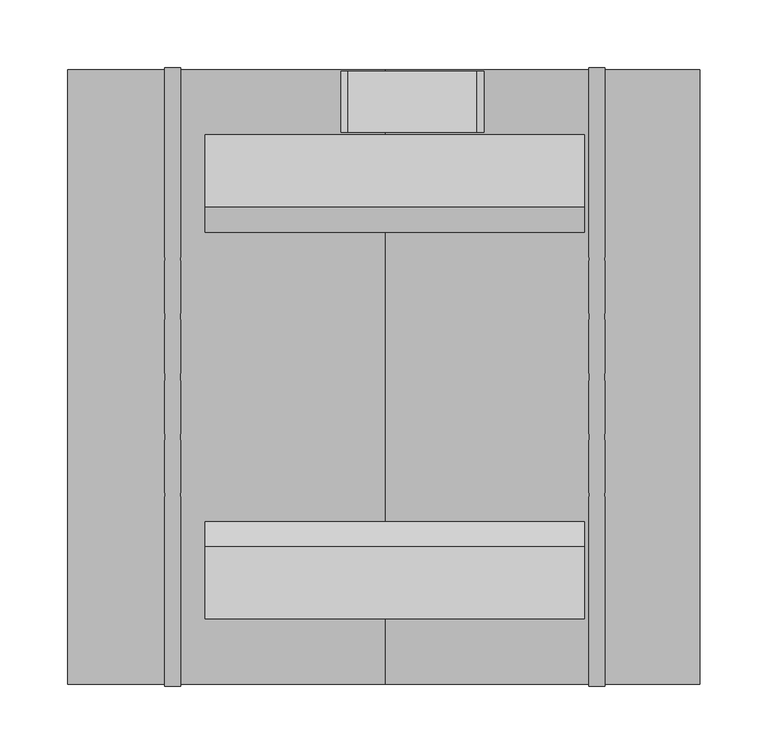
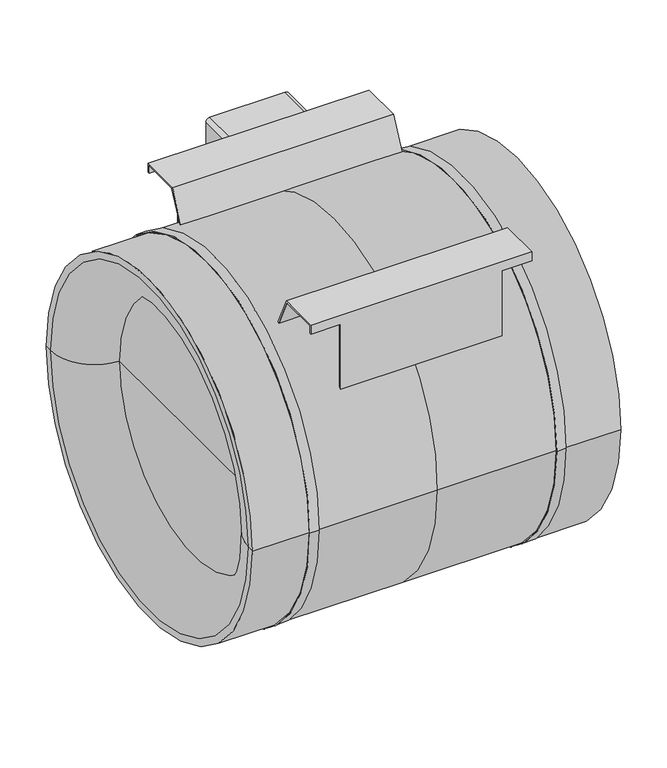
"""IFC4 building model written with IfcOpenShell, lengths in millimetres: unitary equipment geometry, VE-Wentylator-ParaForma-Harmann-JETTEC-Nawiewny : 450/5000S."""

from ifc_helpers import new_model, si_unit, point, frame, frame_2d, origin, place, context, project, spatial, polyline, circle_curve, ellipse_curve, trimmed, segment, composite_curve, outline, extrude, source, transform, mapped, element, save
from ifc_brep_helpers import plane_surface, cylinder_surface, revolved_surface, advanced_brep


def unitary_equipment_794affb7(model_context):
    return source(origin(), model_context, "Body", "SolidModel", [
        extrude(outline(composite_curve([segment(trimmed(circle_curve(frame_2d((149.0, 68.2)), 5.0), [point((144.0, 68.2))], [point((149.0, 73.2))], False, "CARTESIAN"), True, "CONTINUOUS"), segment(polyline([(149.0, 73.2), (230.0, 73.2)]), True, "CONTINUOUS"), segment(trimmed(circle_curve(frame_2d((230.0, 68.2)), 5.0), [point((230.0, 73.2))], [point((235.0, 68.2))], False, "CARTESIAN"), True, "CONTINUOUS"), segment(polyline([(235.0, 68.2), (235.0, -27.2)]), True, "CONTINUOUS"), segment(trimmed(circle_curve(frame_2d((230.0, -27.2)), 5.0), [point((235.0, -27.2))], [point((230.0, -32.2))], False, "CARTESIAN"), True, "CONTINUOUS"), segment(polyline([(230.0, -32.2), (149.0, -32.2)]), True, "CONTINUOUS"), segment(trimmed(circle_curve(frame_2d((149.0, -27.2)), 5.0), [point((149.0, -32.2))], [point((144.0, -27.2))], False, "CARTESIAN"), True, "CONTINUOUS"), segment(polyline([(144.0, -27.2), (144.0, 68.2)]), True, "CONTINUOUS")], self_intersect=False)), frame((0.0, 180.5, 0.0), z_axis=(0.0, 1.0, 0.0), x_axis=(0.0, 0.0, 1.0)), (0.0, 0.0, 1.0), 45.0),
        advanced_brep(
        [(147.5, 178.5, 226.5), (147.5, 178.5, 238.5), (147.5, 125.2, 238.5), (147.5, 106.8284471, 199.7246427), (147.5, 108.5903171, 198.7722139), (147.5, 126.4655365, 236.5), (147.5, 176.5, 236.5), (147.5, 176.5, 226.5), (110.0, 176.5, 226.5), (110.0, 178.5, 226.5), (-132.5, 176.5, 236.5), (-132.5, 176.5, 226.5), (-95.0, 176.5, 226.5), (-95.0, 176.5, 141.9506957), (110.0, 176.5, 141.9506957), (-132.5, 126.4655365, 236.5), (110.0, 108.5903171, 198.7722139), (-95.0, 108.5903171, 198.7722139), (-132.5, 108.5903171, 198.7722139), (-132.5, 125.2, 238.5), (-132.5, 106.8284471, 199.7246427), (-95.0, 106.8284471, 199.7246427), (110.0, 106.8284471, 199.7246427), (-132.5, 178.5, 238.5), (110.0, 178.5, 139.4274005), (-95.0, 178.5, 139.4274005), (-95.0, 178.5, 226.5), (-132.5, 178.5, 226.5)],
        [
            (0, 1),
            (1, 2),
            (2, 3),
            (3, 4, circle_curve(frame((147.5, 0.0, 0.0), z_axis=(-1.0, 0.0, 0.0), x_axis=(0.0, 1.0, 0.0)), 226.5)),
            (4, 5),
            (5, 6),
            (6, 7),
            (7, 0),
            (7, 8),
            (8, 9),
            (9, 0),
            (6, 10),
            (10, 11),
            (11, 12),
            (12, 13),
            (13, 14),
            (14, 8),
            (5, 15),
            (15, 10),
            (4, 16),
            (16, 17),
            (17, 18),
            (18, 15),
            (19, 20),
            (20, 21),
            (21, 22),
            (22, 3),
            (2, 19),
            (1, 23),
            (23, 19),
            (9, 24),
            (24, 25),
            (25, 26),
            (26, 27),
            (27, 23),
            (20, 18, circle_curve(frame((-132.5, 0.0, 0.0), z_axis=(-1.0, 0.0, 0.0), x_axis=(0.0, 1.0, 0.0)), 226.5)),
            (17, 21, circle_curve(frame((-95.0, 0.0, 0.0), z_axis=(1.0, 0.0, 0.0), x_axis=(0.0, 1.0, 0.0)), 226.5)),
            (22, 16, circle_curve(frame((110.0, 0.0, 0.0), z_axis=(-1.0, 0.0, 0.0), x_axis=(0.0, 1.0, 0.0)), 226.5)),
            (25, 13, circle_curve(frame((-95.0, 0.0, 0.0), z_axis=(1.0, 0.0, 0.0), x_axis=(0.0, 1.0, 0.0)), 226.5)),
            (12, 26),
            (14, 24, circle_curve(frame((110.0, 0.0, 0.0), z_axis=(-1.0, 0.0, 0.0), x_axis=(0.0, 1.0, 0.0)), 226.5)),
            (27, 11),
        ],
        [
            plane_surface(frame((147.5, 0.0, 0.0), z_axis=(1.0, 0.0, 0.0), x_axis=(0.0, 0.0, 1.0))),
            plane_surface(frame((110.0, 178.5, 226.5), z_axis=(0.0, 0.0, -1.0), x_axis=(1.0, 0.0, 0.0))),
            plane_surface(frame((110.0, 176.5, 226.5), z_axis=(0.0, -1.0, 0.0), x_axis=(1.0, 0.0, 0.0))),
            plane_surface(frame((110.0, 176.5, 236.5), z_axis=(0.0, 0.0, -1.0), x_axis=(1.0, 0.0, 0.0))),
            plane_surface(frame((110.0, 126.4655365, 236.5), z_axis=(0.0, 0.9036992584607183, -0.4281677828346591), x_axis=(1.0, 0.0, 0.0))),
            plane_surface(frame((110.0, 12.2, 0.0), z_axis=(0.0, -0.9036992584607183, 0.4281677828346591), x_axis=(1.0, 0.0, 0.0))),
            plane_surface(frame((110.0, 125.2, 238.5), z_axis=(0.0, 0.0, 1.0), x_axis=(1.0, 0.0, 0.0))),
            plane_surface(frame((110.0, 178.5, 238.5), z_axis=(0.0, 1.0, 0.0), x_axis=(1.0, 0.0, 0.0))),
            revolved_surface(polyline([(-132.5, 226.5, 0.0), (-95.0, 226.5, 0.0)]), (-132.5, 0.0, 0.0), (-1.0, 0.0, 0.0)),
            revolved_surface(polyline([(110.0, 226.5, 0.0), (147.5, 226.5, 0.0)]), (110.0, 0.0, 0.0), (-1.0, 0.0, 0.0)),
            plane_surface(frame((-95.0, 0.0, 0.0), z_axis=(-1.0, 0.0, 0.0), x_axis=(0.0, 0.0, 1.0))),
            plane_surface(frame((110.0, 0.0, 0.0), z_axis=(1.0, 0.0, 0.0), x_axis=(0.0, 0.0, 1.0))),
            revolved_surface(polyline([(-95.0, 226.5, 0.0), (110.0, 226.5, 0.0)]), (-95.0, 0.0, 0.0), (-1.0, 0.0, 0.0)),
            plane_surface(frame((-132.5, 0.0, 0.0), z_axis=(-1.0, 0.0, 0.0), x_axis=(0.0, 0.0, 1.0))),
            plane_surface(frame((-132.5, 178.5, 226.5), z_axis=(0.0, 0.0, -1.0), x_axis=(1.0, 0.0, 0.0))),
        ],
        [
            (0, [[1, 2, 3, 4, 5, 6, 7, 8]]),
            (1, [[-8, 9, 10, 11]]),
            (2, [[-7, 12, 13, 14, 15, 16, 17, -9]]),
            (3, [[-12, -6, 18, 19]]),
            (4, [[-18, -5, 20, 21, 22, 23]]),
            (5, [[24, 25, 26, 27, -3, 28]]),
            (6, [[-28, -2, 29, 30]]),
            (7, [[-29, -1, -11, 31, 32, 33, 34, 35]]),
            (8, [[36, -22, 37, -25]]),
            (9, [[-4, -27, 38, -20]]),
            (10, [[39, -15, 40, -33]]),
            (11, [[41, -31, -10, -17]]),
            (12, [[-21, -38, -26, -37]]),
            (12, [[-39, -32, -41, -16]]),
            (13, [[42, -13, -19, -23, -36, -24, -30, -35]]),
            (14, [[-42, -34, -40, -14]]),
        ],
    ),
        advanced_brep(
        [(147.5, -125.2, 238.5), (147.5, -178.5, 238.5), (147.5, -178.5, 226.5), (147.5, -176.5, 226.5), (147.5, -176.5, 236.5), (147.5, -126.4655365, 236.5), (147.5, -108.5903171, 198.7722139), (147.5, -106.8284471, 199.7246427), (-132.5, -126.4655365, 236.5), (-132.5, -108.5903171, 198.7722139), (-95.0, -108.5903171, 198.7722139), (110.0, -108.5903171, 198.7722139), (-132.5, -176.5, 236.5), (110.0, -176.5, 226.5), (110.0, -176.5, 141.9506957), (-95.0, -176.5, 141.9506957), (-95.0, -176.5, 226.5), (-132.5, -176.5, 226.5), (110.0, -178.5, 226.5), (-132.5, -178.5, 238.5), (-132.5, -178.5, 226.5), (-95.0, -178.5, 226.5), (-95.0, -178.5, 139.4274005), (110.0, -178.5, 139.4274005), (-132.5, -125.2, 238.5), (110.0, -106.8284471, 199.7246427), (-95.0, -106.8284471, 199.7246427), (-132.5, -106.8284471, 199.7246427)],
        [
            (0, 1),
            (1, 2),
            (2, 3),
            (3, 4),
            (4, 5),
            (5, 6),
            (6, 7, circle_curve(frame((147.5, 0.0, 0.0), z_axis=(-1.0, 0.0, 0.0), x_axis=(0.0, 1.0, 0.0)), 226.5)),
            (7, 0),
            (8, 9),
            (9, 10),
            (10, 11),
            (11, 6),
            (5, 8),
            (4, 12),
            (12, 8),
            (3, 13),
            (13, 14),
            (14, 15),
            (15, 16),
            (16, 17),
            (17, 12),
            (2, 18),
            (18, 13),
            (1, 19),
            (19, 20),
            (20, 21),
            (21, 22),
            (22, 23),
            (23, 18),
            (0, 24),
            (24, 19),
            (7, 25),
            (25, 26),
            (26, 27),
            (27, 24),
            (9, 27, circle_curve(frame((-132.5, 0.0, 0.0), z_axis=(-1.0, 0.0, 0.0), x_axis=(0.0, 1.0, 0.0)), 226.5)),
            (26, 10, circle_curve(frame((-95.0, 0.0, 0.0), z_axis=(1.0, 0.0, 0.0), x_axis=(0.0, 1.0, 0.0)), 226.5)),
            (11, 25, circle_curve(frame((110.0, 0.0, 0.0), z_axis=(-1.0, 0.0, 0.0), x_axis=(0.0, 1.0, 0.0)), 226.5)),
            (15, 22, circle_curve(frame((-95.0, 0.0, 0.0), z_axis=(1.0, 0.0, 0.0), x_axis=(0.0, 1.0, 0.0)), 226.5)),
            (21, 16),
            (23, 14, circle_curve(frame((110.0, 0.0, 0.0), z_axis=(-1.0, 0.0, 0.0), x_axis=(0.0, 1.0, 0.0)), 226.5)),
            (17, 20),
        ],
        [
            plane_surface(frame((147.5, 0.0, 0.0), z_axis=(1.0, 0.0, 0.0), x_axis=(0.0, 0.0, 1.0))),
            plane_surface(frame((110.0, -13.4655365, -2.0), z_axis=(0.0, -0.9036992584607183, -0.4281677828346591), x_axis=(1.0, 0.0, 0.0))),
            plane_surface(frame((110.0, -126.4655365, 236.5), z_axis=(0.0, 0.0, -1.0), x_axis=(1.0, 0.0, 0.0))),
            plane_surface(frame((110.0, -176.5, 236.5), z_axis=(0.0, 1.0, 0.0), x_axis=(1.0, 0.0, 0.0))),
            plane_surface(frame((110.0, -176.5, 226.5), z_axis=(0.0, 0.0, -1.0), x_axis=(1.0, 0.0, 0.0))),
            plane_surface(frame((110.0, -178.5, 226.5), z_axis=(0.0, -1.0, 0.0), x_axis=(1.0, 0.0, 0.0))),
            plane_surface(frame((110.0, -178.5, 238.5), z_axis=(0.0, 0.0, 1.0), x_axis=(1.0, 0.0, 0.0))),
            plane_surface(frame((110.0, -125.2, 238.5), z_axis=(0.0, 0.9036992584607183, 0.4281677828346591), x_axis=(1.0, 0.0, 0.0))),
            revolved_surface(polyline([(-132.5, 226.5, 0.0), (-95.0, 226.5, 0.0)]), (-132.5, 0.0, 0.0), (-1.0, 0.0, 0.0)),
            revolved_surface(polyline([(110.0, 226.5, 0.0), (147.5, 226.5, 0.0)]), (110.0, 0.0, 0.0), (-1.0, 0.0, 0.0)),
            plane_surface(frame((-95.0, 0.0, 0.0), z_axis=(-1.0, 0.0, 0.0), x_axis=(0.0, 0.0, 1.0))),
            plane_surface(frame((110.0, 0.0, 0.0), z_axis=(1.0, 0.0, 0.0), x_axis=(0.0, 0.0, 1.0))),
            revolved_surface(polyline([(-95.0, 226.5, 0.0), (110.0, 226.5, 0.0)]), (-95.0, 0.0, 0.0), (-1.0, 0.0, 0.0)),
            plane_surface(frame((-132.5, 0.0, 0.0), z_axis=(-1.0, 0.0, 0.0), x_axis=(0.0, 0.0, 1.0))),
            plane_surface(frame((-132.5, -176.5, 226.5), z_axis=(0.0, 0.0, -1.0), x_axis=(1.0, 0.0, 0.0))),
        ],
        [
            (0, [[1, 2, 3, 4, 5, 6, 7, 8]]),
            (1, [[9, 10, 11, 12, -6, 13]]),
            (2, [[-13, -5, 14, 15]]),
            (3, [[-14, -4, 16, 17, 18, 19, 20, 21]]),
            (4, [[-3, 22, 23, -16]]),
            (5, [[-2, 24, 25, 26, 27, 28, 29, -22]]),
            (6, [[-24, -1, 30, 31]]),
            (7, [[-30, -8, 32, 33, 34, 35]]),
            (8, [[36, -34, 37, -10]]),
            (9, [[-7, -12, 38, -32]]),
            (10, [[39, -27, 40, -19]]),
            (11, [[41, -17, -23, -29]]),
            (12, [[-11, -37, -33, -38]]),
            (12, [[-39, -18, -41, -28]]),
            (13, [[-15, -21, 42, -25, -31, -35, -36, -9]]),
            (14, [[-42, -20, -40, -26]]),
        ],
    ),
        advanced_brep(
        [(-150.5, 226.5, 0.0), (0.0, 226.5, 0.0), (0.0, -226.5, 0.0), (-150.5, -226.5, 0.0), (-234.0, -226.5, 0.0), (-234.0, 226.5, 0.0), (-162.5, 226.5, 0.0), (-162.5, -226.5, 0.0), (-234.0, -217.5, 0.0), (-234.0, 217.5, 0.0), (-178.5, -162.0, 0.0), (-178.5, 162.0, 0.0), (-178.5, 0.0, 0.0), (232.5, -226.5, 0.0), (232.5, 226.5, 0.0), (232.5, 0.0, 0.0), (162.5, -226.5, 0.0), (162.5, 226.5, 0.0), (150.5, 226.5, 0.0), (150.5, -226.5, 0.0), (-150.5, -228.0, 0.0), (-150.5, 228.0, 0.0), (-162.5, -228.0, 0.0), (-162.5, 228.0, 0.0), (162.5, -228.0, 0.0), (162.5, 228.0, 0.0), (150.5, -228.0, 0.0), (150.5, 228.0, 0.0)],
        [
            (0, 1),
            (1, 2, circle_curve(frame((0.0, 0.0, 0.0), z_axis=(-1.0, 0.0, 0.0), x_axis=(0.0, 1.0, 0.0)), 226.5)),
            (2, 3),
            (3, 0, circle_curve(frame((-150.5, 0.0, 0.0), z_axis=(1.0, 0.0, 0.0), x_axis=(0.0, 1.0, 0.0)), 226.5)),
            (0, 3, circle_curve(frame((-150.5, 0.0, 0.0), z_axis=(1.0, 0.0, 0.0), x_axis=(0.0, 1.0, 0.0)), 226.5)),
            (2, 1, circle_curve(frame((0.0, 0.0, 0.0), z_axis=(-1.0, 0.0, 0.0), x_axis=(0.0, 1.0, 0.0)), 226.5)),
            (4, 5, circle_curve(frame((-234.0, 0.0, 0.0), z_axis=(1.0, 0.0, 0.0), x_axis=(0.0, 1.0, 0.0)), 226.5)),
            (5, 6),
            (6, 7, circle_curve(frame((-162.5, 0.0, 0.0), z_axis=(-1.0, 0.0, 0.0), x_axis=(0.0, 1.0, 0.0)), 226.5)),
            (7, 4),
            (5, 4, circle_curve(frame((-234.0, 0.0, 0.0), z_axis=(1.0, 0.0, 0.0), x_axis=(0.0, 1.0, 0.0)), 226.5)),
            (7, 6, circle_curve(frame((-162.5, 0.0, 0.0), z_axis=(-1.0, 0.0, 0.0), x_axis=(0.0, 1.0, 0.0)), 226.5)),
            (4, 8),
            (8, 9, circle_curve(frame((-234.0, 0.0, 0.0), z_axis=(1.0, 0.0, 0.0), x_axis=(0.0, 1.0, 0.0)), 217.5)),
            (9, 5),
            (9, 8, circle_curve(frame((-234.0, 0.0, 0.0), z_axis=(1.0, 0.0, 0.0), x_axis=(0.0, 1.0, 0.0)), 217.5)),
            (8, 10, circle_curve(frame((-178.5, -217.5, 0.0), z_axis=(0.0, 0.0, -1.0), x_axis=(1.0, 0.0, 0.0)), 55.5)),
            (10, 11, circle_curve(frame((-178.5, 0.0, 0.0), z_axis=(1.0, 0.0, 0.0), x_axis=(0.0, 1.0, 0.0)), 162.0)),
            (11, 9, circle_curve(frame((-178.5, 217.5, 0.0), z_axis=(0.0, 0.0, -1.0), x_axis=(1.0, 0.0, 0.0)), 55.5)),
            (11, 10, circle_curve(frame((-178.5, 0.0, 0.0), z_axis=(1.0, 0.0, 0.0), x_axis=(0.0, 1.0, 0.0)), 162.0)),
            (10, 12),
            (12, 11),
            (13, 14, circle_curve(frame((232.5, 0.0, 0.0), z_axis=(1.0, 0.0, 0.0), x_axis=(0.0, 1.0, 0.0)), 226.5)),
            (14, 15),
            (15, 13),
            (14, 13, circle_curve(frame((232.5, 0.0, 0.0), z_axis=(1.0, 0.0, 0.0), x_axis=(0.0, 1.0, 0.0)), 226.5)),
            (13, 16),
            (16, 17, circle_curve(frame((162.5, 0.0, 0.0), z_axis=(1.0, 0.0, 0.0), x_axis=(0.0, 1.0, 0.0)), 226.5)),
            (17, 14),
            (17, 16, circle_curve(frame((162.5, 0.0, 0.0), z_axis=(1.0, 0.0, 0.0), x_axis=(0.0, 1.0, 0.0)), 226.5)),
            (1, 18),
            (18, 19, circle_curve(frame((150.5, 0.0, 0.0), z_axis=(-1.0, 0.0, 0.0), x_axis=(0.0, 1.0, 0.0)), 226.5)),
            (19, 2),
            (19, 18, circle_curve(frame((150.5, 0.0, 0.0), z_axis=(-1.0, 0.0, 0.0), x_axis=(0.0, 1.0, 0.0)), 226.5)),
            (20, 21, circle_curve(frame((-150.5, 0.0, 0.0), z_axis=(1.0, 0.0, 0.0), x_axis=(0.0, 1.0, 0.0)), 228.0)),
            (21, 0),
            (3, 20),
            (21, 20, circle_curve(frame((-150.5, 0.0, 0.0), z_axis=(1.0, 0.0, 0.0), x_axis=(0.0, 1.0, 0.0)), 228.0)),
            (20, 22),
            (22, 23, circle_curve(frame((-162.5, 0.0, 0.0), z_axis=(1.0, 0.0, 0.0), x_axis=(0.0, 1.0, 0.0)), 228.0)),
            (23, 21),
            (23, 22, circle_curve(frame((-162.5, 0.0, 0.0), z_axis=(1.0, 0.0, 0.0), x_axis=(0.0, 1.0, 0.0)), 228.0)),
            (22, 7),
            (6, 23),
            (24, 25, circle_curve(frame((162.5, 0.0, 0.0), z_axis=(1.0, 0.0, 0.0), x_axis=(0.0, 1.0, 0.0)), 228.0)),
            (25, 17),
            (16, 24),
            (25, 24, circle_curve(frame((162.5, 0.0, 0.0), z_axis=(1.0, 0.0, 0.0), x_axis=(0.0, 1.0, 0.0)), 228.0)),
            (24, 26),
            (26, 27, circle_curve(frame((150.5, 0.0, 0.0), z_axis=(1.0, 0.0, 0.0), x_axis=(0.0, 1.0, 0.0)), 228.0)),
            (27, 25),
            (27, 26, circle_curve(frame((150.5, 0.0, 0.0), z_axis=(1.0, 0.0, 0.0), x_axis=(0.0, 1.0, 0.0)), 228.0)),
            (26, 19),
            (18, 27),
        ],
        [
            cylinder_surface(frame((-178.5, 0.0, 0.0), z_axis=(-1.0, 0.0, 0.0), x_axis=(0.0, 1.0, 0.0)), 226.5),
            plane_surface(frame((-234.0, 0.0, 0.0), z_axis=(-1.0, 0.0, 0.0), x_axis=(0.0, 1.0, 0.0))),
            revolved_surface(trimmed(ellipse_curve(frame((-178.5, 217.5, 0.0), z_axis=(0.0, 0.0, 1.0), x_axis=(1.0, 0.0, 0.0)), 55.5, 55.5), [point((-234.0, 217.5, 0.0))], [point((-178.5, 162.0, 0.0))], True, "CARTESIAN"), (-178.5, 0.0, 0.0), (-1.0, 0.0, 0.0)),
            plane_surface(frame((-178.5, 0.0, 0.0), z_axis=(-1.0, 0.0, 0.0), x_axis=(0.0, 1.0, 0.0))),
            plane_surface(frame((232.5, 0.0, 0.0), z_axis=(1.0, 0.0, 0.0), x_axis=(0.0, 1.0, 0.0))),
            cylinder_surface(frame((0.0, 0.0, 0.0), z_axis=(-1.0, 0.0, 0.0), x_axis=(0.0, 1.0, 0.0)), 226.5),
            plane_surface(frame((-150.5, 0.0, 0.0), z_axis=(1.0, 0.0, 0.0), x_axis=(0.0, 1.0, 0.0))),
            cylinder_surface(frame((-162.5, 0.0, 0.0), z_axis=(-1.0, 0.0, 0.0), x_axis=(0.0, 1.0, 0.0)), 228.0),
            plane_surface(frame((-162.5, 0.0, 0.0), z_axis=(-1.0, 0.0, 0.0), x_axis=(0.0, 1.0, 0.0))),
            plane_surface(frame((162.5, 0.0, 0.0), z_axis=(1.0, 0.0, 0.0), x_axis=(0.0, 1.0, 0.0))),
            plane_surface(frame((150.5, 0.0, 0.0), z_axis=(-1.0, 0.0, 0.0), x_axis=(0.0, 1.0, 0.0))),
        ],
        [
            (0, [[1, 2, 3, 4]]),
            (0, [[-1, 5, -3, 6]]),
            (0, [[7, 8, 9, 10]]),
            (0, [[-8, 11, -10, 12]]),
            (1, [[-7, 13, 14, 15]]),
            (1, [[-11, -15, 16, -13]]),
            (2, [[-14, 17, 18, 19]]),
            (2, [[-16, -19, 20, -17]]),
            (3, [[-18, 21, 22]]),
            (3, [[-20, -22, -21]]),
            (4, [[23, 24, 25]]),
            (4, [[-24, 26, -25]]),
            (5, [[-23, 27, 28, 29]]),
            (5, [[-26, -29, 30, -27]]),
            (5, [[31, 32, 33, -2]]),
            (5, [[-31, -6, -33, 34]]),
            (6, [[35, 36, -4, 37]]),
            (6, [[38, -37, -5, -36]]),
            (7, [[-35, 39, 40, 41]]),
            (7, [[-38, -41, 42, -39]]),
            (8, [[-40, 43, -9, 44]]),
            (8, [[-42, -44, -12, -43]]),
            (9, [[45, 46, -28, 47]]),
            (9, [[48, -47, -30, -46]]),
            (7, [[-45, 49, 50, 51]]),
            (7, [[-48, -51, 52, -49]]),
            (10, [[-50, 53, -32, 54]]),
            (10, [[-52, -54, -34, -53]]),
        ],
    ),
    ])


if __name__ == "__main__":
    model = new_model("IFC4")
    model_context = context("Model", 3, world=origin())
    ifc_project = project(units=[si_unit("LENGTHUNIT", "METRE", prefix="MILLI")], contexts=[model_context])
    site = spatial("IfcSite", under=ifc_project)
    building = spatial("IfcBuilding", under=site)
    placement = place(None, origin())
    unitary_equipment_shape = unitary_equipment_794affb7(model_context)
    element("IfcUnitaryEquipment", 1, ObjectType="VE-Wentylator-ParaForma-Harmann-JETTEC-Nawiewny : 450/5000S", at=placement, inside=building, context=model_context, shape_type="MappedRepresentation", body=[
        mapped(unitary_equipment_shape, transform((0.0, 0.0, 0.0), x_axis=(1.0, 0.0, 0.0), y_axis=(0.0, 1.0, 0.0), z_axis=(0.0, 0.0, 1.0))),
    ])
    save(model, "model.ifc")
